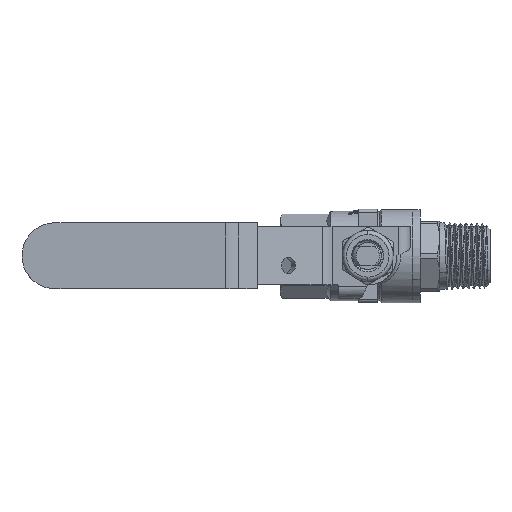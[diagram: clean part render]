
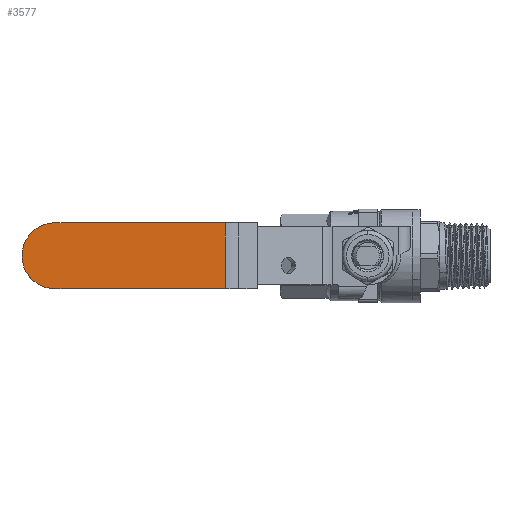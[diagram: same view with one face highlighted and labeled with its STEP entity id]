
A CAD part, top view. The second image highlights one B-rep face of the part: STEP entity #3577.
In plain terms, the highlighted planar face has unit normal (0, 0, 1).
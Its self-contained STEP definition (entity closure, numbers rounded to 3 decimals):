
#3061 = PLANE('',#3062);
#3062 = AXIS2_PLACEMENT_3D('',#3063,#3064,#3065);
#3063 = CARTESIAN_POINT('',(-36.668,-19.91,
    39.436));
#3064 = DIRECTION('',(0.,1.,0.));
#3065 = DIRECTION('',(0.,0.,-1.));
#3090 = CYLINDRICAL_SURFACE('',#3091,8.5);
#3091 = AXIS2_PLACEMENT_3D('',#3092,#3093,#3094);
#3092 = CARTESIAN_POINT('',(-80.604,-11.41,
    42.836));
#3093 = DIRECTION('',(0.,0.,-1.));
#3094 = DIRECTION('',(1.,0.,0.));
#3119 = CYLINDRICAL_SURFACE('',#3120,8.5);
#3120 = AXIS2_PLACEMENT_3D('',#3121,#3122,#3123);
#3121 = CARTESIAN_POINT('',(-80.604,-11.41,
    39.436));
#3122 = DIRECTION('',(0.,0.,1.));
#3123 = DIRECTION('',(-1.,0.,0.));
#3147 = PLANE('',#3148);
#3148 = AXIS2_PLACEMENT_3D('',#3149,#3150,#3151);
#3149 = CARTESIAN_POINT('',(-36.668,-2.91,
    39.436));
#3150 = DIRECTION('',(0.,1.,0.));
#3151 = DIRECTION('',(0.,0.,-1.));
#3467 = CYLINDRICAL_SURFACE('',#3468,6.6);
#3468 = AXIS2_PLACEMENT_3D('',#3469,#3470,#3471);
#3469 = CARTESIAN_POINT('',(-36.668,-19.91,
    39.436));
#3470 = DIRECTION('',(0.,1.,0.));
#3471 = DIRECTION('',(0.,0.,-1.));
#3505 = VERTEX_POINT('',#3506);
#3506 = CARTESIAN_POINT('',(-36.668,-2.91,
    46.036));
#3528 = EDGE_CURVE('',#3529,#3505,#3531,.T.);
#3529 = VERTEX_POINT('',#3530);
#3530 = CARTESIAN_POINT('',(-36.668,-19.91,
    46.036));
#3531 = SURFACE_CURVE('',#3532,(#3536,#3543),.PCURVE_S1.);
#3532 = LINE('',#3533,#3534);
#3533 = CARTESIAN_POINT('',(-36.668,-19.91,
    46.036));
#3534 = VECTOR('',#3535,1.);
#3535 = DIRECTION('',(0.,1.,0.));
#3536 = PCURVE('',#3467,#3537);
#3537 = DEFINITIONAL_REPRESENTATION('',(#3538),#3542);
#3538 = LINE('',#3539,#3540);
#3539 = CARTESIAN_POINT('',(3.142,0.));
#3540 = VECTOR('',#3541,1.);
#3541 = DIRECTION('',(0.,1.));
#3542 = ( GEOMETRIC_REPRESENTATION_CONTEXT(2) 
PARAMETRIC_REPRESENTATION_CONTEXT() REPRESENTATION_CONTEXT('2D SPACE',''
  ) );
#3543 = PCURVE('',#3544,#3549);
#3544 = PLANE('',#3545);
#3545 = AXIS2_PLACEMENT_3D('',#3546,#3547,#3548);
#3546 = CARTESIAN_POINT('',(-89.104,-19.91,
    46.036));
#3547 = DIRECTION('',(0.,0.,1.));
#3548 = DIRECTION('',(-1.,0.,0.));
#3549 = DEFINITIONAL_REPRESENTATION('',(#3550),#3554);
#3550 = LINE('',#3551,#3552);
#3551 = CARTESIAN_POINT('',(-52.436,0.));
#3552 = VECTOR('',#3553,1.);
#3553 = DIRECTION('',(0.,-1.));
#3554 = ( GEOMETRIC_REPRESENTATION_CONTEXT(2) 
PARAMETRIC_REPRESENTATION_CONTEXT() REPRESENTATION_CONTEXT('2D SPACE',''
  ) );
#3577 = ADVANCED_FACE('',(#3578),#3544,.T.);
#3578 = FACE_BOUND('',#3579,.T.);
#3579 = EDGE_LOOP('',(#3580,#3606,#3630,#3651,#3652));
#3580 = ORIENTED_EDGE('',*,*,#3581,.T.);
#3581 = EDGE_CURVE('',#3582,#3584,#3586,.T.);
#3582 = VERTEX_POINT('',#3583);
#3583 = CARTESIAN_POINT('',(-80.604,-2.91,
    46.036));
#3584 = VERTEX_POINT('',#3585);
#3585 = CARTESIAN_POINT('',(-89.104,-11.41,
    46.036));
#3586 = SURFACE_CURVE('',#3587,(#3592,#3599),.PCURVE_S1.);
#3587 = CIRCLE('',#3588,8.5);
#3588 = AXIS2_PLACEMENT_3D('',#3589,#3590,#3591);
#3589 = CARTESIAN_POINT('',(-80.604,-11.41,
    46.036));
#3590 = DIRECTION('',(0.,0.,1.));
#3591 = DIRECTION('',(-1.,0.,0.));
#3592 = PCURVE('',#3544,#3593);
#3593 = DEFINITIONAL_REPRESENTATION('',(#3594),#3598);
#3594 = CIRCLE('',#3595,8.5);
#3595 = AXIS2_PLACEMENT_2D('',#3596,#3597);
#3596 = CARTESIAN_POINT('',(-8.5,-8.5));
#3597 = DIRECTION('',(1.,0.));
#3598 = ( GEOMETRIC_REPRESENTATION_CONTEXT(2) 
PARAMETRIC_REPRESENTATION_CONTEXT() REPRESENTATION_CONTEXT('2D SPACE',''
  ) );
#3599 = PCURVE('',#3119,#3600);
#3600 = DEFINITIONAL_REPRESENTATION('',(#3601),#3605);
#3601 = LINE('',#3602,#3603);
#3602 = CARTESIAN_POINT('',(0.,6.6));
#3603 = VECTOR('',#3604,1.);
#3604 = DIRECTION('',(1.,0.));
#3605 = ( GEOMETRIC_REPRESENTATION_CONTEXT(2) 
PARAMETRIC_REPRESENTATION_CONTEXT() REPRESENTATION_CONTEXT('2D SPACE',''
  ) );
#3606 = ORIENTED_EDGE('',*,*,#3607,.T.);
#3607 = EDGE_CURVE('',#3584,#3608,#3610,.T.);
#3608 = VERTEX_POINT('',#3609);
#3609 = CARTESIAN_POINT('',(-80.604,-19.91,
    46.036));
#3610 = SURFACE_CURVE('',#3611,(#3616,#3623),.PCURVE_S1.);
#3611 = CIRCLE('',#3612,8.5);
#3612 = AXIS2_PLACEMENT_3D('',#3613,#3614,#3615);
#3613 = CARTESIAN_POINT('',(-80.604,-11.41,
    46.036));
#3614 = DIRECTION('',(0.,0.,1.));
#3615 = DIRECTION('',(-1.,0.,0.));
#3616 = PCURVE('',#3544,#3617);
#3617 = DEFINITIONAL_REPRESENTATION('',(#3618),#3622);
#3618 = CIRCLE('',#3619,8.5);
#3619 = AXIS2_PLACEMENT_2D('',#3620,#3621);
#3620 = CARTESIAN_POINT('',(-8.5,-8.5));
#3621 = DIRECTION('',(1.,0.));
#3622 = ( GEOMETRIC_REPRESENTATION_CONTEXT(2) 
PARAMETRIC_REPRESENTATION_CONTEXT() REPRESENTATION_CONTEXT('2D SPACE',''
  ) );
#3623 = PCURVE('',#3090,#3624);
#3624 = DEFINITIONAL_REPRESENTATION('',(#3625),#3629);
#3625 = LINE('',#3626,#3627);
#3626 = CARTESIAN_POINT('',(3.142,-3.2));
#3627 = VECTOR('',#3628,1.);
#3628 = DIRECTION('',(-1.,0.));
#3629 = ( GEOMETRIC_REPRESENTATION_CONTEXT(2) 
PARAMETRIC_REPRESENTATION_CONTEXT() REPRESENTATION_CONTEXT('2D SPACE',''
  ) );
#3630 = ORIENTED_EDGE('',*,*,#3631,.T.);
#3631 = EDGE_CURVE('',#3608,#3529,#3632,.T.);
#3632 = SURFACE_CURVE('',#3633,(#3637,#3644),.PCURVE_S1.);
#3633 = LINE('',#3634,#3635);
#3634 = CARTESIAN_POINT('',(-89.104,-19.91,
    46.036));
#3635 = VECTOR('',#3636,1.);
#3636 = DIRECTION('',(1.,0.,0.));
#3637 = PCURVE('',#3544,#3638);
#3638 = DEFINITIONAL_REPRESENTATION('',(#3639),#3643);
#3639 = LINE('',#3640,#3641);
#3640 = CARTESIAN_POINT('',(0.,-0.));
#3641 = VECTOR('',#3642,1.);
#3642 = DIRECTION('',(-1.,0.));
#3643 = ( GEOMETRIC_REPRESENTATION_CONTEXT(2) 
PARAMETRIC_REPRESENTATION_CONTEXT() REPRESENTATION_CONTEXT('2D SPACE',''
  ) );
#3644 = PCURVE('',#3061,#3645);
#3645 = DEFINITIONAL_REPRESENTATION('',(#3646),#3650);
#3646 = LINE('',#3647,#3648);
#3647 = CARTESIAN_POINT('',(-6.6,52.436));
#3648 = VECTOR('',#3649,1.);
#3649 = DIRECTION('',(0.,-1.));
#3650 = ( GEOMETRIC_REPRESENTATION_CONTEXT(2) 
PARAMETRIC_REPRESENTATION_CONTEXT() REPRESENTATION_CONTEXT('2D SPACE',''
  ) );
#3651 = ORIENTED_EDGE('',*,*,#3528,.T.);
#3652 = ORIENTED_EDGE('',*,*,#3653,.F.);
#3653 = EDGE_CURVE('',#3582,#3505,#3654,.T.);
#3654 = SURFACE_CURVE('',#3655,(#3659,#3666),.PCURVE_S1.);
#3655 = LINE('',#3656,#3657);
#3656 = CARTESIAN_POINT('',(-89.104,-2.91,
    46.036));
#3657 = VECTOR('',#3658,1.);
#3658 = DIRECTION('',(1.,0.,0.));
#3659 = PCURVE('',#3544,#3660);
#3660 = DEFINITIONAL_REPRESENTATION('',(#3661),#3665);
#3661 = LINE('',#3662,#3663);
#3662 = CARTESIAN_POINT('',(0.,-17.));
#3663 = VECTOR('',#3664,1.);
#3664 = DIRECTION('',(-1.,0.));
#3665 = ( GEOMETRIC_REPRESENTATION_CONTEXT(2) 
PARAMETRIC_REPRESENTATION_CONTEXT() REPRESENTATION_CONTEXT('2D SPACE',''
  ) );
#3666 = PCURVE('',#3147,#3667);
#3667 = DEFINITIONAL_REPRESENTATION('',(#3668),#3672);
#3668 = LINE('',#3669,#3670);
#3669 = CARTESIAN_POINT('',(-6.6,52.436));
#3670 = VECTOR('',#3671,1.);
#3671 = DIRECTION('',(0.,-1.));
#3672 = ( GEOMETRIC_REPRESENTATION_CONTEXT(2) 
PARAMETRIC_REPRESENTATION_CONTEXT() REPRESENTATION_CONTEXT('2D SPACE',''
  ) );
